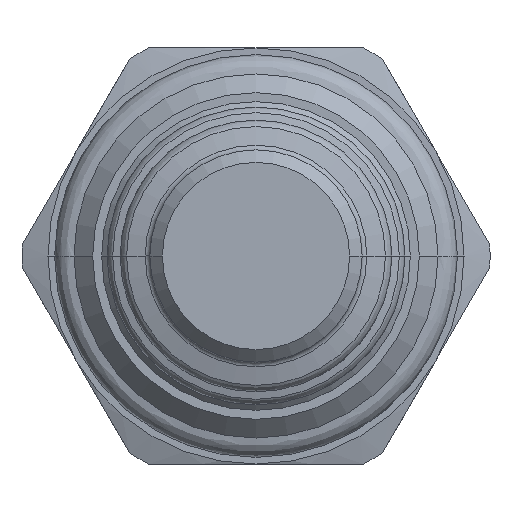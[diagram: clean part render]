
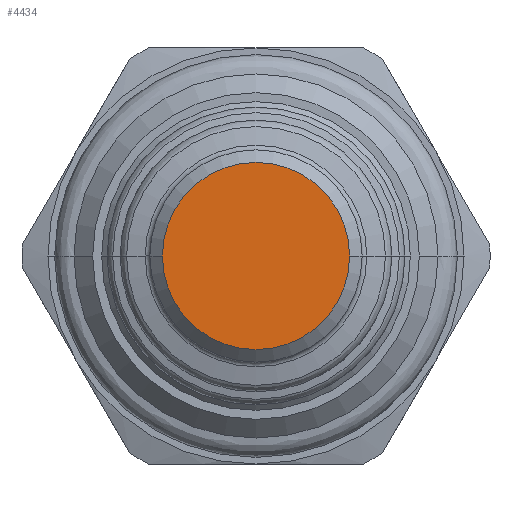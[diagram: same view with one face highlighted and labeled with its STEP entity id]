
A CAD part, front view. The second image highlights one B-rep face of the part: STEP entity #4434.
In plain terms, the highlighted planar face has unit normal (0, -1, 0).
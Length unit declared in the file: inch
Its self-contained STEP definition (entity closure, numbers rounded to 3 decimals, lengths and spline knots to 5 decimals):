
#1675=CARTESIAN_POINT('',(0.,-2.324,0.));
#1676=DIRECTION('',(0.,1.,0.));
#1677=DIRECTION('',(-1.,0.,0.));
#1678=AXIS2_PLACEMENT_3D('',#1675,#1676,#1677);
#1680=CARTESIAN_POINT('',(0.,-2.324,0.));
#1681=DIRECTION('',(0.,1.,0.));
#1682=DIRECTION('',(1.,0.,0.));
#1683=AXIS2_PLACEMENT_3D('',#1680,#1681,#1682);
#1737=CARTESIAN_POINT('',(-0.225,-2.324,0.));
#1738=CARTESIAN_POINT('',(0.225,-2.324,0.));
#1739=VERTEX_POINT('',#1737);
#1740=VERTEX_POINT('',#1738);
#4425=CARTESIAN_POINT('',(0.,-2.324,0.));
#4426=DIRECTION('',(0.,-1.,0.));
#4427=DIRECTION('',(-1.,0.,0.));
#4428=AXIS2_PLACEMENT_3D('',#4425,#4426,#4427);
#4429=PLANE('',#4428);
#4430=ORIENTED_EDGE('',*,*,#4419,.T.);
#4431=ORIENTED_EDGE('',*,*,#4405,.T.);
#4432=EDGE_LOOP('',(#4430,#4431));
#4433=FACE_OUTER_BOUND('',#4432,.F.);
#4434=ADVANCED_FACE('',(#4433),#4429,.T.);
#1679=CIRCLE('',#1678,0.225);
#1684=CIRCLE('',#1683,0.225);
#4405=EDGE_CURVE('',#1740,#1739,#1684,.T.);
#4419=EDGE_CURVE('',#1739,#1740,#1679,.T.);
